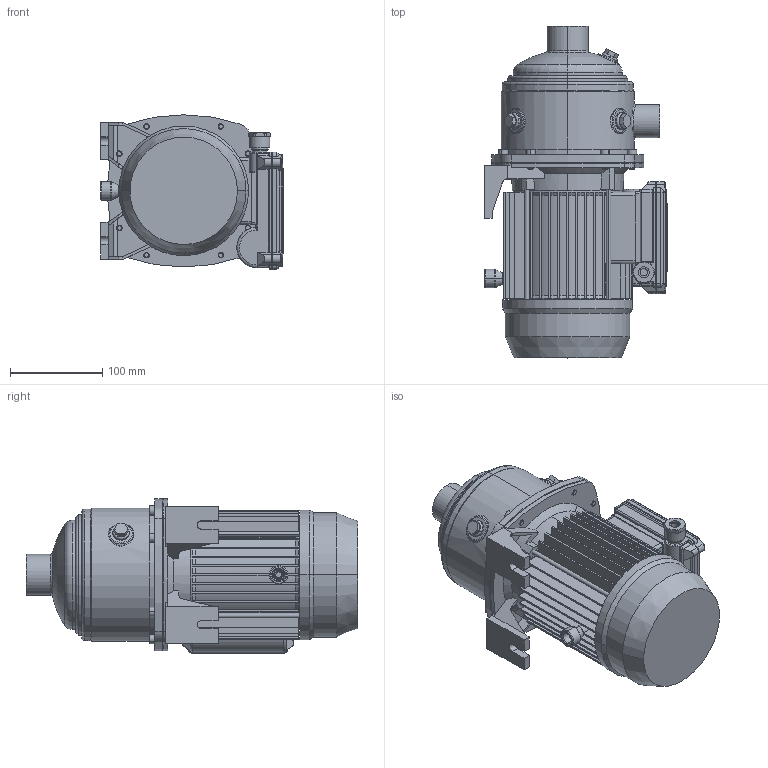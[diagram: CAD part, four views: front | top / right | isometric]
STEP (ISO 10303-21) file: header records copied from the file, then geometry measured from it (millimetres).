
FILE_DESCRIPTION((''),'2;1');
FILE_NAME('MATRIX_5-2T6_0_9_M_ASM','2017-10-10T',('shehi'),('"Ebara Pumps Europe +39.444.706811"'),'PRO/ENGINEER BY PARAMETRIC TECHNOLOGY CORPORATION, 2014200','PRO/ENGINEER BY PARAMETRIC TECHNOLOGY CORPORATION, 2014200','');
FILE_SCHEMA(('AUTOMOTIVE_DESIGN { 1 0 10303 214 1 1 1 1 }'));
Length unit declared in the file: millimetre
Products named in the file (6): CORPO_POMPA_MATRIX_5-2_3; SUPPORTO_MATRIX_MEC_71; MEC_71_PACCO_90_MONOFASE; COPRIMORS_MEC63-71_MONOFASE_M4; 72228; MATRIX_5-2T6_0_9_M_ASM
Assembly tree (5 placements, depth 2):
  MATRIX_5-2T6_0_9_M_ASM
    CORPO_POMPA_MATRIX_5-2_3
    SUPPORTO_MATRIX_MEC_71
    MEC_71_PACCO_90_MONOFASE
    COPRIMORS_MEC63-71_MONOFASE_M4
    72228
Bounding box: 198 x 359.8 x 167.5 mm (x, y, z)
Volume: 3971558.3 mm3; surface area: 502186.2 mm2
Topology: 5 solids, 5 shells, 938 faces, 2262 edges, 1388 vertices
Faces by surface type: plane 455, cylinder 277, cone 126, torus 39, bspline 31, sphere 10
Entity records: 37467 total; most frequent: CARTESIAN_POINT 7964, DIRECTION 4686, ORIENTED_EDGE 4524, EDGE_CURVE 2262, PRESENTATION_STYLE_ASSIGNMENT 2216, STYLED_ITEM 2216, CURVE_STYLE 2212, AXIS2_PLACEMENT_3D 1777
